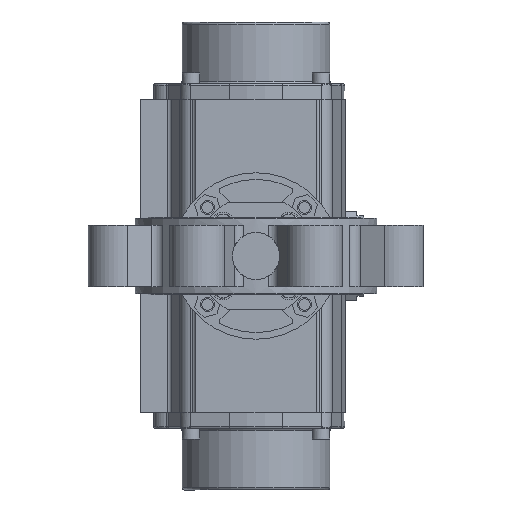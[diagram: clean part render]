
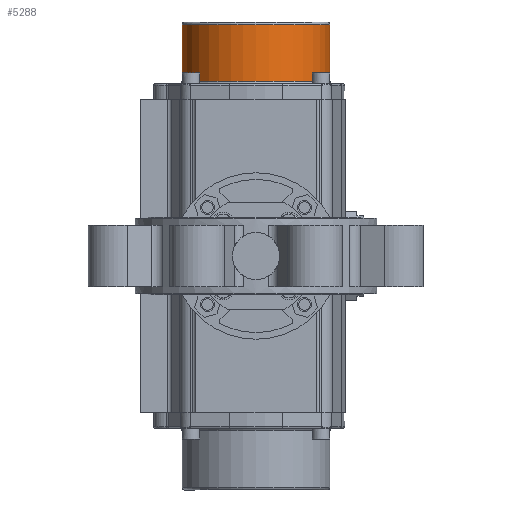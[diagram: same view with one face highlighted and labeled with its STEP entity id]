
A CAD part, front view. The second image highlights one B-rep face of the part: STEP entity #5288.
In plain terms, the highlighted cylindrical face has radius 55 mm (diameter 110 mm), a partial arc.
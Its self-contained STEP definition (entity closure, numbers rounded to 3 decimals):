
#550 = EDGE_CURVE ( 'NONE', #22388, #2771, #10726, .T. ) ;
#807 = EDGE_LOOP ( 'NONE', ( #18932, #10281, #4646, #18117 ) ) ;
#994 = FACE_OUTER_BOUND ( 'NONE', #807, .T. ) ;
#1678 = CIRCLE ( 'NONE', #12279, 55. ) ;
#2771 = VERTEX_POINT ( 'NONE', #14008 ) ;
#3323 = DIRECTION ( 'NONE',  ( -1., 0., 0. ) ) ;
#4588 = VERTEX_POINT ( 'NONE', #18943 ) ;
#4646 = ORIENTED_EDGE ( 'NONE', *, *, #550, .T. ) ;
#5288 = ADVANCED_FACE ( 'NONE', ( #994 ), #14970, .T. ) ;
#6564 = CARTESIAN_POINT ( 'NONE',  ( 172.25, 0., 0. ) ) ;
#6791 = CARTESIAN_POINT ( 'NONE',  ( 172.25, 0., 55. ) ) ;
#6907 = CARTESIAN_POINT ( 'NONE',  ( 174.25, 0., 0. ) ) ;
#10281 = ORIENTED_EDGE ( 'NONE', *, *, #20380, .T. ) ;
#10501 = DIRECTION ( 'NONE',  ( -1., 0., 0. ) ) ;
#10726 = LINE ( 'NONE', #18566, #21589 ) ;
#11786 = CIRCLE ( 'NONE', #20408, 55. ) ;
#12146 = LINE ( 'NONE', #20010, #14548 ) ;
#12279 = AXIS2_PLACEMENT_3D ( 'NONE', #6564, #10501, #24627 ) ;
#14008 = CARTESIAN_POINT ( 'NONE',  ( 130.3, 0., 55. ) ) ;
#14548 = VECTOR ( 'NONE', #20131, 1000. ) ;
#14852 = DIRECTION ( 'NONE',  ( 0., 0., 1. ) ) ;
#14970 = CYLINDRICAL_SURFACE ( 'NONE', #21609, 55. ) ;
#15747 = EDGE_CURVE ( 'NONE', #21008, #4588, #12146, .T. ) ;
#16339 = CARTESIAN_POINT ( 'NONE',  ( 130.3, 0., 0. ) ) ;
#18117 = ORIENTED_EDGE ( 'NONE', *, *, #24774, .T. ) ;
#18566 = CARTESIAN_POINT ( 'NONE',  ( 174.25, 0., 55. ) ) ;
#18932 = ORIENTED_EDGE ( 'NONE', *, *, #15747, .F. ) ;
#18943 = CARTESIAN_POINT ( 'NONE',  ( 130.3, 0., -55. ) ) ;
#20010 = CARTESIAN_POINT ( 'NONE',  ( 174.25, 0., -55. ) ) ;
#20131 = DIRECTION ( 'NONE',  ( -1., 0., 0. ) ) ;
#20200 = DIRECTION ( 'NONE',  ( 1., 0., 0. ) ) ;
#20380 = EDGE_CURVE ( 'NONE', #21008, #22388, #1678, .T. ) ;
#20408 = AXIS2_PLACEMENT_3D ( 'NONE', #16339, #20200, #21981 ) ;
#21008 = VERTEX_POINT ( 'NONE', #24250 ) ;
#21589 = VECTOR ( 'NONE', #3323, 1000. ) ;
#21609 = AXIS2_PLACEMENT_3D ( 'NONE', #6907, #24596, #14852 ) ;
#21981 = DIRECTION ( 'NONE',  ( 0., 0., -1. ) ) ;
#22388 = VERTEX_POINT ( 'NONE', #6791 ) ;
#24250 = CARTESIAN_POINT ( 'NONE',  ( 172.25, 0., -55. ) ) ;
#24596 = DIRECTION ( 'NONE',  ( -1., 0., 0. ) ) ;
#24627 = DIRECTION ( 'NONE',  ( 0., 0., -1. ) ) ;
#24774 = EDGE_CURVE ( 'NONE', #2771, #4588, #11786, .T. ) ;
